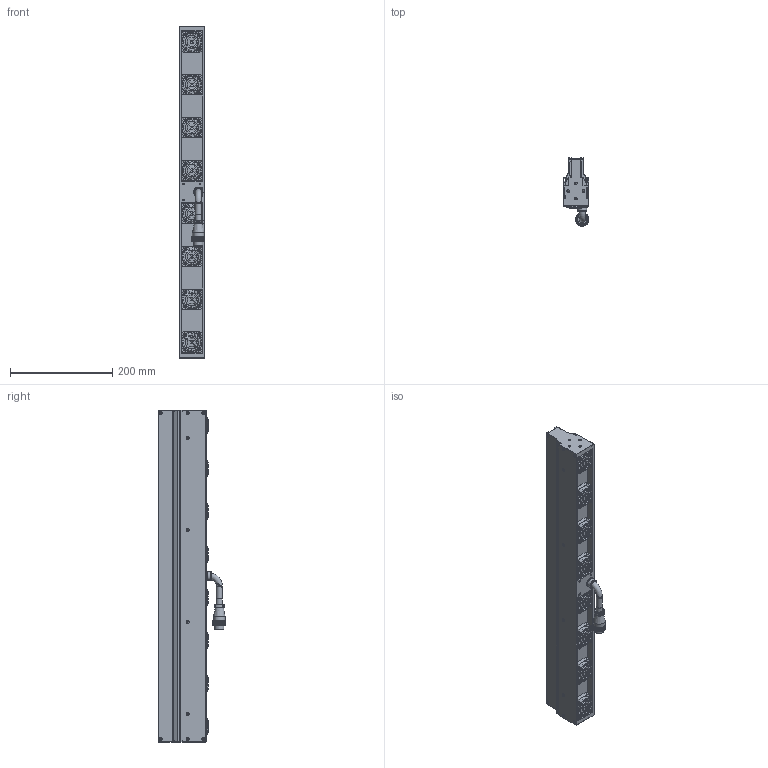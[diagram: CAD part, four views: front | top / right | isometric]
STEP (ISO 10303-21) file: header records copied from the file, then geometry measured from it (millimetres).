
FILE_DESCRIPTION (( 'STEP AP203' ), '1' );
FILE_NAME ('OPT-LSS650-W-V3.1U尨砩芞.STEP', '2025-01-21T06:36:21', ( 'USER' ), ( '' ), 'SwSTEP 2.0', 'SolidWorks 2016', '' );
FILE_SCHEMA (( 'CONFIG_CONTROL_DESIGN' ));
Products named in the file (2): OPT-LSS650-W-V3.1U尨砩芞
Bounding box: 50.6 x 133 x 650 mm (x, y, z)
Volume: 2225699 mm3; surface area: 390551 mm2
Topology: 38 solids, 54 shells, 3640 faces, 9077 edges, 5711 vertices
Faces by surface type: bspline 1159, cylinder 1103, plane 871, torus 452, cone 55
Full cylindrical faces by diameter (mm): 1 x2, 1.1 x2, 1.4 x2, 1.6 x32, 2 x8, 2.5 x24, 3 x4, 3.2 x36, 3.4 x20, 3.5 x12, 5 x8, 6.2 x32, 8 x1, 11.6 x1, 11.7 x3, 12 x1, 15 x1, 15.9 x1, 17.5 x1, 18 x1, 18.5 x1, 22.8 x1, 24 x1, 24.8 x8, 38 x8
Entity records: 131468 total; most frequent: CARTESIAN_POINT 58559, ORIENTED_EDGE 17010, DIRECTION 10909, EDGE_CURVE 8505, VERTEX_POINT 5586, B_SPLINE_CURVE_WITH_KNOTS 4641, AXIS2_PLACEMENT_3D 4570, EDGE_LOOP 4299
